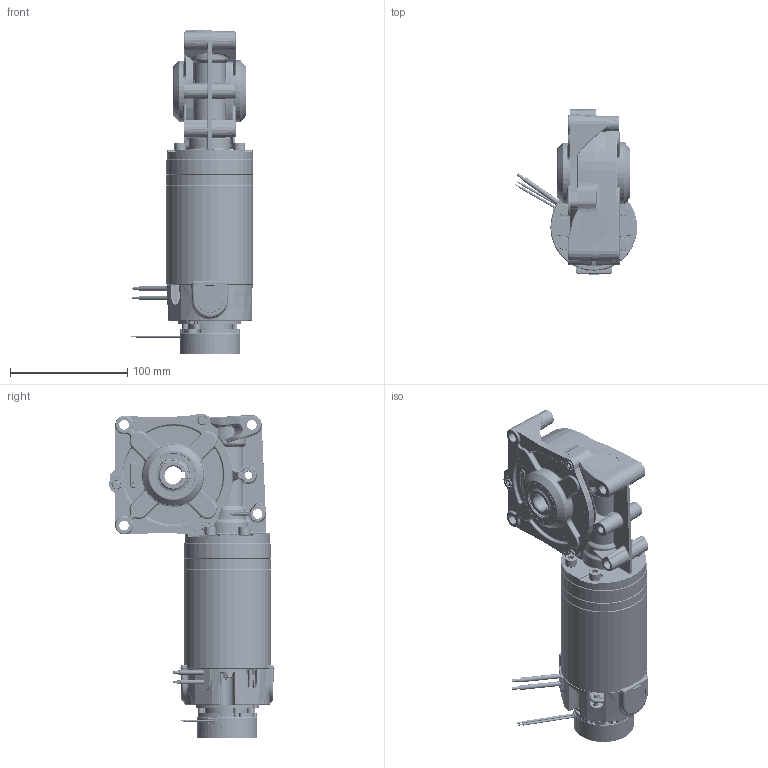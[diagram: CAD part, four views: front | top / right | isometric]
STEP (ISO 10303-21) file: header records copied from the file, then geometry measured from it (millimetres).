
FILE_DESCRIPTION (( 'STEP AP214' ), '1' );
FILE_NAME ('BRx70-40-GB12 - Brake (render model).STEP', '2024-01-10T16:40:04', ( '' ), ( '' ), 'SwSTEP 2.0', 'SolidWorks 2023', '' );
FILE_SCHEMA (( 'AUTOMOTIVE_DESIGN' ));
Length unit declared in the file: millimetre
Products named in the file (1): BRx70-40-GB12 - Brake (render model)
Bounding box: 104.34 x 141.47 x 276.79 mm (x, y, z)
Surface area: 271485.7 mm2 (no closed solid volume)
Topology: 0 solids, 58 shells, 4811 faces, 11761 edges, 7045 vertices
Faces by surface type: cylinder 1723, bspline 994, plane 970, torus 537, cone 483, sphere 104
Entity records: 227450 total; most frequent: CARTESIAN_POINT 68401, ORIENTED_EDGE 23156, DIRECTION 21281, EDGE_CURVE 11580, AXIS2_PLACEMENT_3D 8766, VERTEX_POINT 7045, EDGE_LOOP 5118, CIRCLE 4948
